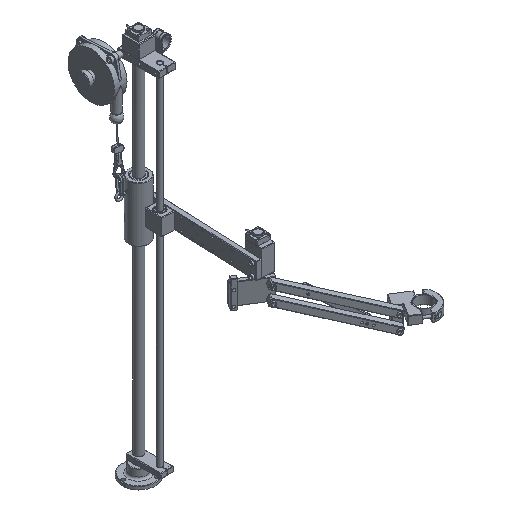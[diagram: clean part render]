
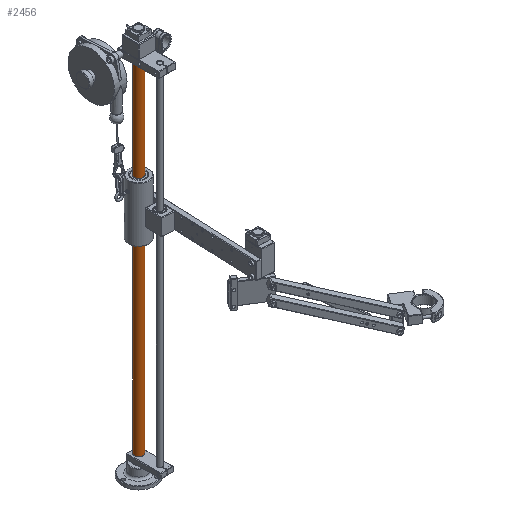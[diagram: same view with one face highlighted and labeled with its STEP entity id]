
A CAD part, isometric view. The second image highlights one B-rep face of the part: STEP entity #2456.
In plain terms, the highlighted cylindrical face has radius 10 mm (diameter 20 mm), a full revolution.
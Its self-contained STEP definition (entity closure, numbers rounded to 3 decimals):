
#2456 = ADVANCED_FACE( '', ( #4975, #4976 ), #4977, .T. );
#4975 = FACE_OUTER_BOUND( '', #8670, .T. );
#4976 = FACE_OUTER_BOUND( '', #8671, .T. );
#4977 = CYLINDRICAL_SURFACE( '', #8672, 10. );
#8670 = EDGE_LOOP( '', ( #13732, #13733, #13734, #13735 ) );
#8671 = EDGE_LOOP( '', ( #13736 ) );
#8672 = AXIS2_PLACEMENT_3D( '', #13737, #13738, #13739 );
#13732 = ORIENTED_EDGE( '', *, *, #21217, .F. );
#13733 = ORIENTED_EDGE( '', *, *, #21184, .T. );
#13734 = ORIENTED_EDGE( '', *, *, #21218, .F. );
#13735 = ORIENTED_EDGE( '', *, *, #21219, .T. );
#13736 = ORIENTED_EDGE( '', *, *, #20824, .T. );
#13737 = CARTESIAN_POINT( '', ( 0., 0., 900. ) );
#13738 = DIRECTION( '', ( 0., 0., 1. ) );
#13739 = DIRECTION( '', ( -1., 0., 0. ) );
#20824 = EDGE_CURVE( '', #26587, #26587, #26588, .T. );
#21184 = EDGE_CURVE( '', #27164, #27165, #27167, .F. );
#21217 = EDGE_CURVE( '', #27164, #27223, #27224, .F. );
#21218 = EDGE_CURVE( '', #27225, #27165, #27226, .T. );
#21219 = EDGE_CURVE( '', #27225, #27223, #27227, .T. );
#26587 = VERTEX_POINT( '', #31713 );
#26588 = CIRCLE( '', #31714, 10. );
#27164 = VERTEX_POINT( '', #32500 );
#27165 = VERTEX_POINT( '', #32501 );
#27167 = CIRCLE( '', #32504, 10. );
#27223 = VERTEX_POINT( '', #32574 );
#27224 = LINE( '', #32575, #32576 );
#27225 = VERTEX_POINT( '', #32577 );
#27226 = LINE( '', #32578, #32579 );
#27227 = CIRCLE( '', #32580, 10. );
#31713 = CARTESIAN_POINT( '', ( -10., 0., 35. ) );
#31714 = AXIS2_PLACEMENT_3D( '', #38194, #38195, #38196 );
#32500 = CARTESIAN_POINT( '', ( -9., -4.359, 875. ) );
#32501 = CARTESIAN_POINT( '', ( -9., 4.359, 875. ) );
#32504 = AXIS2_PLACEMENT_3D( '', #38591, #38592, #38593 );
#32574 = CARTESIAN_POINT( '', ( -9., -4.359, 899. ) );
#32575 = CARTESIAN_POINT( '', ( -9., -4.359, 900. ) );
#32576 = VECTOR( '', #38641, 1000. );
#32577 = CARTESIAN_POINT( '', ( -9., 4.359, 899. ) );
#32578 = CARTESIAN_POINT( '', ( -9., 4.359, 900. ) );
#32579 = VECTOR( '', #38642, 1000. );
#32580 = AXIS2_PLACEMENT_3D( '', #38643, #38644, #38645 );
#38194 = CARTESIAN_POINT( '', ( 0., 0., 35. ) );
#38195 = DIRECTION( '', ( 0., 0., 1. ) );
#38196 = DIRECTION( '', ( -1., 0., 0. ) );
#38591 = CARTESIAN_POINT( '', ( 0., 0., 875. ) );
#38592 = DIRECTION( '', ( 0., 0., 1. ) );
#38593 = DIRECTION( '', ( 1., 0., 0. ) );
#38641 = DIRECTION( '', ( 0., 0., -1. ) );
#38642 = DIRECTION( '', ( 0., 0., -1. ) );
#38643 = CARTESIAN_POINT( '', ( 0., 0., 899. ) );
#38644 = DIRECTION( '', ( 0., 0., -1. ) );
#38645 = DIRECTION( '', ( -1., 0., 0. ) );
